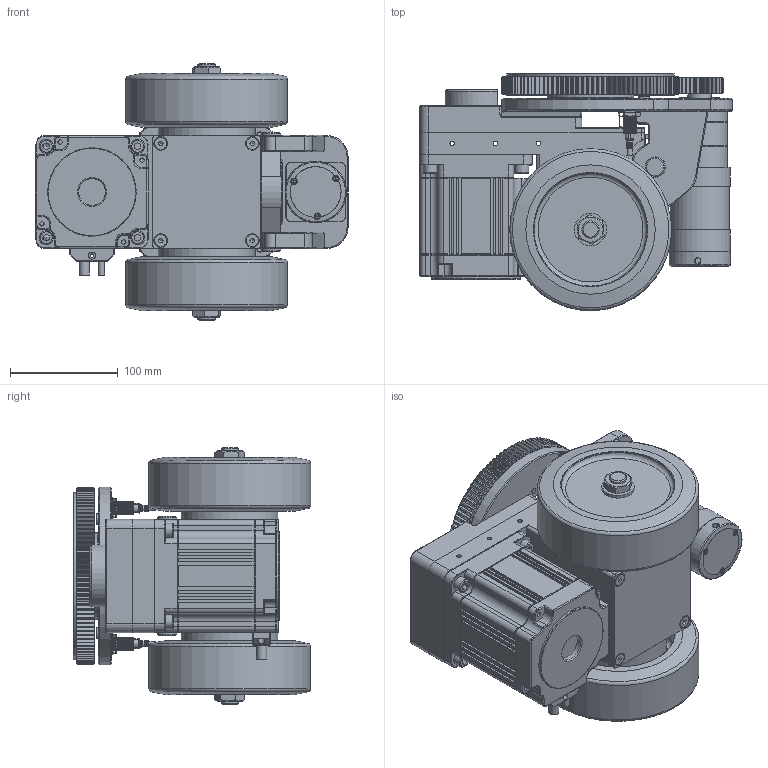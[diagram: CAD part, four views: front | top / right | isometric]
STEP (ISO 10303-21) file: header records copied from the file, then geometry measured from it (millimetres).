
FILE_DESCRIPTION (( 'STEP AP214' ), '1' );
FILE_NAME ('2019-4-26船煦ん嗆謫軞傖150.STEP', '2019-05-08T14:07:44', ( '' ), ( '' ), 'SwSTEP 2.0', 'SolidWorks 2016', '' );
FILE_SCHEMA (( 'AUTOMOTIVE_DESIGN' ));
Length unit declared in the file: millimetre
Products named in the file (1): 2019-4-26船煦ん嗆謫軞傖150
Bounding box: 289.5 x 220 x 238 mm (x, y, z)
Surface area: 514040.9 mm2 (no closed solid volume)
Topology: 0 solids, 107 shells, 1852 faces, 5691 edges, 3825 vertices
Faces by surface type: cylinder 799, plane 587, cone 346, torus 68, bspline 50, sphere 2
Full cylindrical faces by diameter (mm): 3 x2, 4 x5, 4.2 x6, 4.5 x2, 4.7 x7, 5 x11, 5.1 x2, 6 x8, 6.5 x1, 7.53 x1, 8.5 x6, 9.43 x2, 9.5 x1, 10 x4, 11 x10, 11.34 x4, 13 x5, 15 x4, 15.24 x2, 16 x3, 18 x2, 20 x1, 22 x1, 24.8 x1, 30 x2, 38 x1, 52 x4, 55 x1, 57 x3, 60 x1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
Entity records: 94345 total; most frequent: CARTESIAN_POINT 24765, DIRECTION 10614, ORIENTED_EDGE 9241, EDGE_CURVE 5377, AXIS2_PLACEMENT_3D 4169, VERTEX_POINT 3762, CIRCLE 2366, EDGE_LOOP 2326
